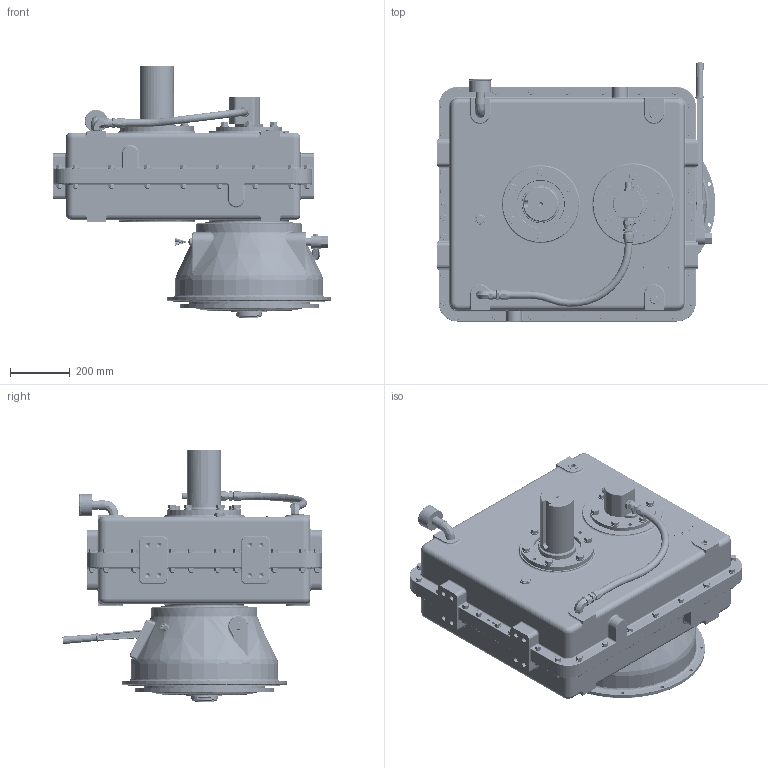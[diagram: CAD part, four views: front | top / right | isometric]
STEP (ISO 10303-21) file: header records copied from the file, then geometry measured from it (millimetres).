
FILE_DESCRIPTION (( 'STEP AP214' ), '1' );
FILE_NAME ('D281A500001.STEP', '2017-09-22T13:08:30', ( 'MikeMihajlovic' ), ( 'Microsoft' ), 'SwSTEP 2.0', 'SolidWorks 2017', '' );
FILE_SCHEMA (( 'AUTOMOTIVE_DESIGN' ));
Length unit declared in the file: inch
Products named in the file (56): D281007; CV7_25X5_00; AVBF-16; DWL_50X1_50; D17-1-SP314; STEL1_00NPT90; HA-12-12-12-30; HHCSZ_38-16X1_00; ME12-CTX-S; CL-SP314-MBR; LWZ_38; PPSKM_75-14; D281001; OS3_625X4_625-2; HHCSZ_50-13X2_75; D281006; HNZ_50-13; D281A500001; SHK22920; LWZ_50; SHK22907; STC12-F5OX-S; HA-12-12-12-14_D281A500001; SHK22905; STC10-F5OX-S; 20621-12-12; SHK22520; SHCS_38-16X1_00; .75IDX12_D281A500001_OUTPUT; SHK22507; OS5_000X6_250-2; WTD-14-904; SHK22505; LPPGP505-10CW; LNTN13; D281001A; HHCSZ_63-11X1_75; LWTW113; D281005; HHCSZ_63-11X1_50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
Assembly tree (198 placements, depth 3):
  D281A500001
    D281001
    CL-SP314-MBR
    HA-12-12-12-30
    DWL_50X1_50  x2
    D281007
    D281003
    D144088
    SHCS_25-20X1_00  x2
    D281004
    D281002
    D281005
    D281001A
    SHK22505  x3
    SHK22507  x3
    SHK22520  x3
    SHK22905  x3
    SHK22907  x3
    SHK22920  x3
    D281006
    OS3_625X4_625-2
    LWZ_38  x6
    HHCSZ_38-16X1_00  x6
    D17-1-SP314
    CV7_25X5_00
    RHSKCS_25-20X_50  x2
    FHSS_63-11X2_00  x6
    D144087
    D204011
    LWZ_63  x12
    HHCSZ_63-11X1_50  x6
    HHCSZ_63-11X1_75  x6
    LPPGP505-10CW
    OS5_000X6_250-2
    SHCS_38-16X1_00  x2
    STC10-F5OX-S
    STC12-F5OX-S
    LWZ_50  x30
    HNZ_50-13  x30
    HHCSZ_50-13X2_75  x30
    PPSKM_75-14
    ME12-CTX-S
    STEL1_00NPT90
    AVBF-16
    PPSKG1_00-11_5  x3
    SG_75NPT-01
    NP266409-1
    DS90081A106  x2
    PPSKG_38-18
    TW-13
    LWTW113
    LNTN13
    WTD-14-904
    HA-12-12-12-14_D281A500001
      .75IDX12_D281A500001_OUTPUT
      20621-12-12  x2
Bounding box: 935.47 x 870.24 x 847.65 mm (x, y, z)
Volume: 1745948.8 mm3; surface area: 9310894.9 mm2
Topology: 132 solids, 411 shells, 7800 faces, 20724 edges, 13607 vertices
Faces by surface type: cylinder 3523, plane 2780, bspline 804, cone 669, torus 24
Full cylindrical faces by diameter (mm): 19.685 x1, 24.663 x1
Entity records: 236467 total; most frequent: CARTESIAN_POINT 104060, ORIENTED_EDGE 26550, DIRECTION 26515, EDGE_CURVE 14286, AXIS2_PLACEMENT_3D 10100, VERTEX_POINT 9534, LINE 6315, VECTOR 6315
